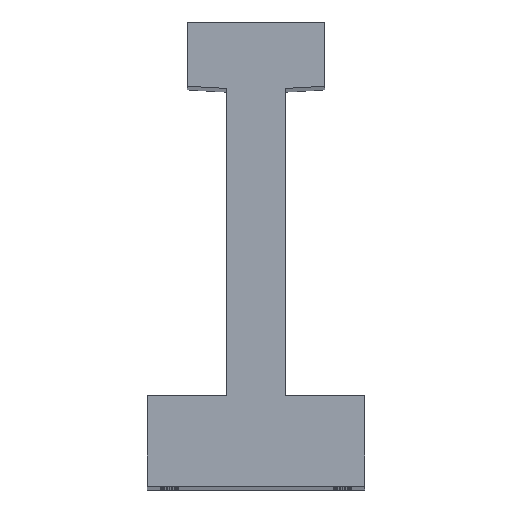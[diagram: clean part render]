
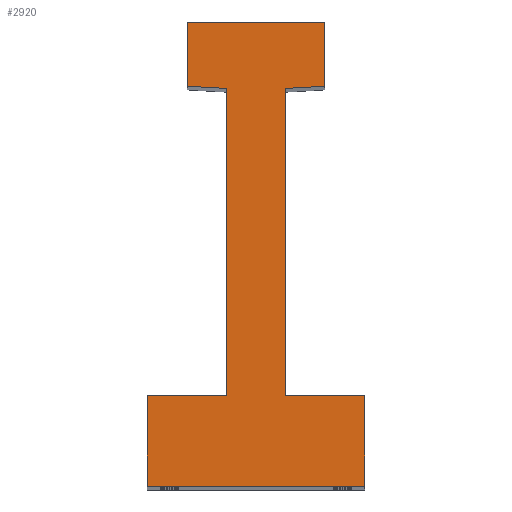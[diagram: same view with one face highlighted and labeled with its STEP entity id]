
A CAD part, top view. The second image highlights one B-rep face of the part: STEP entity #2920.
In plain terms, the highlighted planar face has unit normal (0, 0, 1).
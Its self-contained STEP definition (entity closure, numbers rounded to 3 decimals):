
#23 = VERTEX_POINT ( 'NONE', #768 ) ;
#47 = LINE ( 'NONE', #5143, #1897 ) ;
#54 = VERTEX_POINT ( 'NONE', #544 ) ;
#131 = LINE ( 'NONE', #6086, #2633 ) ;
#324 = DIRECTION ( 'NONE',  ( 0.998, 0.056, 0. ) ) ;
#334 = CARTESIAN_POINT ( 'NONE',  ( 15.5, 89.8, 240.5 ) ) ;
#482 = DIRECTION ( 'NONE',  ( 0., 1., 0. ) ) ;
#544 = CARTESIAN_POINT ( 'NONE',  ( 15.5, 90.3, 240.5 ) ) ;
#565 = VERTEX_POINT ( 'NONE', #2285 ) ;
#711 = VERTEX_POINT ( 'NONE', #3186 ) ;
#725 = EDGE_CURVE ( 'NONE', #565, #54, #47, .T. ) ;
#768 = CARTESIAN_POINT ( 'NONE',  ( 15.5, 104.8, 240.5 ) ) ;
#848 = DIRECTION ( 'NONE',  ( -0.998, 0.056, 0. ) ) ;
#1065 = EDGE_CURVE ( 'NONE', #711, #5010, #2611, .T. ) ;
#1067 = CARTESIAN_POINT ( 'NONE',  ( 24.5, 0., 240.5 ) ) ;
#1173 = LINE ( 'NONE', #4748, #4638 ) ;
#1314 = DIRECTION ( 'NONE',  ( 0., -1., 0. ) ) ;
#1346 = DIRECTION ( 'NONE',  ( 0., -1., 0. ) ) ;
#1497 = LINE ( 'NONE', #3841, #2852 ) ;
#1545 = ORIENTED_EDGE ( 'NONE', *, *, #2669, .T. ) ;
#1696 = ORIENTED_EDGE ( 'NONE', *, *, #4387, .T. ) ;
#1719 = ORIENTED_EDGE ( 'NONE', *, *, #2835, .F. ) ;
#1748 = DIRECTION ( 'NONE',  ( 0., 1., 0. ) ) ;
#1896 = DIRECTION ( 'NONE',  ( 1., 0., 0. ) ) ;
#1897 = VECTOR ( 'NONE', #324, 1000. ) ;
#1980 = ORIENTED_EDGE ( 'NONE', *, *, #3045, .T. ) ;
#1985 = EDGE_CURVE ( 'NONE', #2945, #565, #2502, .T. ) ;
#2008 = VERTEX_POINT ( 'NONE', #3464 ) ;
#2080 = EDGE_CURVE ( 'NONE', #3580, #3453, #5203, .T. ) ;
#2121 = CARTESIAN_POINT ( 'NONE',  ( -24.5, 0., 240.5 ) ) ;
#2139 = VERTEX_POINT ( 'NONE', #2614 ) ;
#2192 = CARTESIAN_POINT ( 'NONE',  ( 24.5, 0., 240.5 ) ) ;
#2239 = DIRECTION ( 'NONE',  ( 0., -1., 0. ) ) ;
#2253 = CARTESIAN_POINT ( 'NONE',  ( -6.6, 89.8, 240.5 ) ) ;
#2285 = CARTESIAN_POINT ( 'NONE',  ( 6.6, 89.8, 240.5 ) ) ;
#2392 = CARTESIAN_POINT ( 'NONE',  ( 6.6, 20.5, 240.5 ) ) ;
#2417 = CARTESIAN_POINT ( 'NONE',  ( 0., 0., 240.5 ) ) ;
#2502 = LINE ( 'NONE', #3412, #4451 ) ;
#2589 = CARTESIAN_POINT ( 'NONE',  ( 24.5, 20.5, 240.5 ) ) ;
#2611 = LINE ( 'NONE', #3805, #4100 ) ;
#2614 = CARTESIAN_POINT ( 'NONE',  ( -15.5, 104.8, 240.5 ) ) ;
#2633 = VECTOR ( 'NONE', #2239, 1000. ) ;
#2669 = EDGE_CURVE ( 'NONE', #23, #2139, #3588, .T. ) ;
#2741 = ORIENTED_EDGE ( 'NONE', *, *, #4290, .T. ) ;
#2835 = EDGE_CURVE ( 'NONE', #6131, #4514, #4044, .T. ) ;
#2852 = VECTOR ( 'NONE', #2873, 1000. ) ;
#2873 = DIRECTION ( 'NONE',  ( -1., 0., 0. ) ) ;
#2904 = ORIENTED_EDGE ( 'NONE', *, *, #1065, .T. ) ;
#2912 = EDGE_CURVE ( 'NONE', #2008, #711, #1497, .T. ) ;
#2920 = ADVANCED_FACE ( 'NONE', ( #4056 ), #3372, .T. ) ;
#2929 = CARTESIAN_POINT ( 'NONE',  ( 24.5, 20.5, 240.5 ) ) ;
#2945 = VERTEX_POINT ( 'NONE', #2392 ) ;
#3045 = EDGE_CURVE ( 'NONE', #2139, #4514, #131, .T. ) ;
#3186 = CARTESIAN_POINT ( 'NONE',  ( -24.5, 20.5, 240.5 ) ) ;
#3372 = PLANE ( 'NONE',  #4278 ) ;
#3410 = LINE ( 'NONE', #2121, #5099 ) ;
#3412 = CARTESIAN_POINT ( 'NONE',  ( 6.6, 20.5, 240.5 ) ) ;
#3453 = VERTEX_POINT ( 'NONE', #2589 ) ;
#3464 = CARTESIAN_POINT ( 'NONE',  ( -6.6, 20.5, 240.5 ) ) ;
#3503 = CARTESIAN_POINT ( 'NONE',  ( 15.5, 104.8, 240.5 ) ) ;
#3530 = DIRECTION ( 'NONE',  ( -1., 0., 0. ) ) ;
#3537 = DIRECTION ( 'NONE',  ( 1., 0., 0. ) ) ;
#3580 = VERTEX_POINT ( 'NONE', #2192 ) ;
#3587 = ORIENTED_EDGE ( 'NONE', *, *, #2912, .T. ) ;
#3588 = LINE ( 'NONE', #3503, #5794 ) ;
#3805 = CARTESIAN_POINT ( 'NONE',  ( -24.5, 0., 240.5 ) ) ;
#3841 = CARTESIAN_POINT ( 'NONE',  ( -24.5, 20.5, 240.5 ) ) ;
#3902 = EDGE_LOOP ( 'NONE', ( #1719, #5195, #3587, #2904, #1696, #4334, #4024, #4868, #3909, #2741, #1545, #1980 ) ) ;
#3909 = ORIENTED_EDGE ( 'NONE', *, *, #725, .T. ) ;
#4024 = ORIENTED_EDGE ( 'NONE', *, *, #5260, .T. ) ;
#4044 = LINE ( 'NONE', #2253, #4352 ) ;
#4050 = EDGE_CURVE ( 'NONE', #6131, #2008, #1173, .T. ) ;
#4056 = FACE_OUTER_BOUND ( 'NONE', #3902, .T. ) ;
#4100 = VECTOR ( 'NONE', #1346, 1000. ) ;
#4278 = AXIS2_PLACEMENT_3D ( 'NONE', #2417, #6270, #1896 ) ;
#4290 = EDGE_CURVE ( 'NONE', #54, #23, #4631, .T. ) ;
#4334 = ORIENTED_EDGE ( 'NONE', *, *, #2080, .T. ) ;
#4352 = VECTOR ( 'NONE', #848, 1000. ) ;
#4387 = EDGE_CURVE ( 'NONE', #5010, #3580, #3410, .T. ) ;
#4451 = VECTOR ( 'NONE', #5371, 1000. ) ;
#4462 = CARTESIAN_POINT ( 'NONE',  ( -6.6, 89.8, 240.5 ) ) ;
#4470 = LINE ( 'NONE', #2929, #5092 ) ;
#4514 = VERTEX_POINT ( 'NONE', #6123 ) ;
#4631 = LINE ( 'NONE', #334, #6021 ) ;
#4638 = VECTOR ( 'NONE', #1314, 1000. ) ;
#4748 = CARTESIAN_POINT ( 'NONE',  ( -6.6, 20.5, 240.5 ) ) ;
#4868 = ORIENTED_EDGE ( 'NONE', *, *, #1985, .T. ) ;
#4933 = DIRECTION ( 'NONE',  ( -1., 0., 0. ) ) ;
#5010 = VERTEX_POINT ( 'NONE', #5161 ) ;
#5092 = VECTOR ( 'NONE', #4933, 1000. ) ;
#5099 = VECTOR ( 'NONE', #3537, 1000. ) ;
#5143 = CARTESIAN_POINT ( 'NONE',  ( 6.6, 89.8, 240.5 ) ) ;
#5161 = CARTESIAN_POINT ( 'NONE',  ( -24.5, 0., 240.5 ) ) ;
#5195 = ORIENTED_EDGE ( 'NONE', *, *, #4050, .T. ) ;
#5203 = LINE ( 'NONE', #1067, #5575 ) ;
#5260 = EDGE_CURVE ( 'NONE', #3453, #2945, #4470, .T. ) ;
#5371 = DIRECTION ( 'NONE',  ( 0., 1., 0. ) ) ;
#5575 = VECTOR ( 'NONE', #482, 1000. ) ;
#5794 = VECTOR ( 'NONE', #3530, 1000. ) ;
#6021 = VECTOR ( 'NONE', #1748, 1000. ) ;
#6086 = CARTESIAN_POINT ( 'NONE',  ( -15.5, 89.8, 240.5 ) ) ;
#6123 = CARTESIAN_POINT ( 'NONE',  ( -15.5, 90.3, 240.5 ) ) ;
#6131 = VERTEX_POINT ( 'NONE', #4462 ) ;
#6270 = DIRECTION ( 'NONE',  ( 0., 0., 1. ) ) ;
